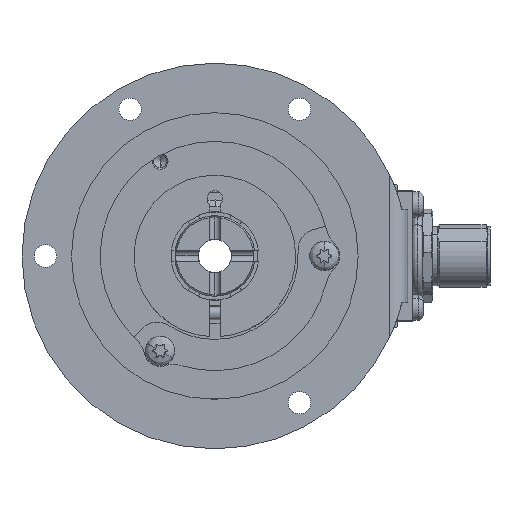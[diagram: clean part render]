
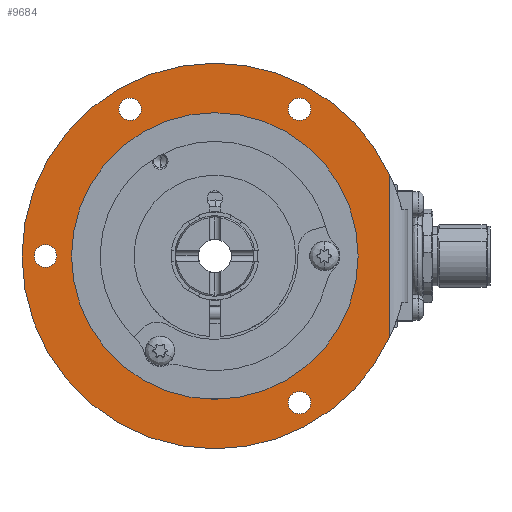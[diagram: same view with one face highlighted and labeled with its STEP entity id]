
A CAD part, left-side view. The second image highlights one B-rep face of the part: STEP entity #9684.
In plain terms, the highlighted planar face has unit normal (-1, 0, 0).
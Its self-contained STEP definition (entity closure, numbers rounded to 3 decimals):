
#39 = VERTEX_POINT ( 'NONE', #17318 ) ;
#103 = DIRECTION ( 'NONE',  ( -1., 0., 0. ) ) ;
#233 = CARTESIAN_POINT ( 'NONE',  ( -19.622, 9.173, -30.296 ) ) ;
#642 = VERTEX_POINT ( 'NONE', #9607 ) ;
#734 = DIRECTION ( 'NONE',  ( -1., 0., 0. ) ) ;
#824 = EDGE_CURVE ( 'NONE', #6047, #10641, #9816, .T. ) ;
#943 = AXIS2_PLACEMENT_3D ( 'NONE', #17556, #2856, #20892 ) ;
#1094 = FACE_BOUND ( 'NONE', #17458, .T. ) ;
#1172 = DIRECTION ( 'NONE',  ( 0., 0., -1. ) ) ;
#1890 = EDGE_CURVE ( 'NONE', #39, #21086, #16045, .T. ) ;
#2131 = ORIENTED_EDGE ( 'NONE', *, *, #6673, .F. ) ;
#2152 = CARTESIAN_POINT ( 'NONE',  ( -19.622, 25.423, 27.5 ) ) ;
#2196 = CARTESIAN_POINT ( 'NONE',  ( -19.622, -8.077, 15.708 ) ) ;
#2469 = DIRECTION ( 'NONE',  ( 0., 0., -1. ) ) ;
#2471 = EDGE_CURVE ( 'NONE', #16066, #11988, #5738, .T. ) ;
#2582 = VERTEX_POINT ( 'NONE', #10339 ) ;
#2856 = DIRECTION ( 'NONE',  ( -1., 0., 0. ) ) ;
#3141 = AXIS2_PLACEMENT_3D ( 'NONE', #10774, #10561, #15736 ) ;
#3195 = AXIS2_PLACEMENT_3D ( 'NONE', #5232, #13868, #15264 ) ;
#3269 = CARTESIAN_POINT ( 'NONE',  ( -19.622, 9.173, 30.296 ) ) ;
#4014 = EDGE_LOOP ( 'NONE', ( #18865, #13568, #5267, #7489 ) ) ;
#4152 = FACE_OUTER_BOUND ( 'NONE', #4014, .T. ) ;
#4446 = EDGE_LOOP ( 'NONE', ( #5110, #12791 ) ) ;
#4477 = DIRECTION ( 'NONE',  ( -1., 0., 0. ) ) ;
#4678 = ORIENTED_EDGE ( 'NONE', *, *, #13243, .F. ) ;
#4834 = DIRECTION ( 'NONE',  ( -1., 0., 0. ) ) ;
#5110 = ORIENTED_EDGE ( 'NONE', *, *, #13520, .F. ) ;
#5115 = EDGE_CURVE ( 'NONE', #11988, #16066, #5847, .T. ) ;
#5174 = EDGE_LOOP ( 'NONE', ( #9808, #20876 ) ) ;
#5229 = CARTESIAN_POINT ( 'NONE',  ( -19.622, 57.923, 2.15 ) ) ;
#5232 = CARTESIAN_POINT ( 'NONE',  ( -19.622, 41.673, 28.146 ) ) ;
#5267 = ORIENTED_EDGE ( 'NONE', *, *, #12271, .T. ) ;
#5631 = CARTESIAN_POINT ( 'NONE',  ( -19.622, 9.173, 25.996 ) ) ;
#5634 = VERTEX_POINT ( 'NONE', #233 ) ;
#5738 = CIRCLE ( 'NONE', #8494, 2.15 ) ;
#5847 = CIRCLE ( 'NONE', #17927, 2.15 ) ;
#5960 = VECTOR ( 'NONE', #19560, 1000. ) ;
#6038 = AXIS2_PLACEMENT_3D ( 'NONE', #17573, #10979, #13712 ) ;
#6047 = VERTEX_POINT ( 'NONE', #3269 ) ;
#6311 = DIRECTION ( 'NONE',  ( 0., 0., -1. ) ) ;
#6535 = ORIENTED_EDGE ( 'NONE', *, *, #21158, .F. ) ;
#6673 = EDGE_CURVE ( 'NONE', #5634, #642, #12986, .T. ) ;
#6728 = DIRECTION ( 'NONE',  ( 0., 0., -1. ) ) ;
#7403 = AXIS2_PLACEMENT_3D ( 'NONE', #16206, #16105, #1172 ) ;
#7489 = ORIENTED_EDGE ( 'NONE', *, *, #18455, .T. ) ;
#7601 = FACE_BOUND ( 'NONE', #5174, .T. ) ;
#7707 = FACE_BOUND ( 'NONE', #4446, .T. ) ;
#8168 = CARTESIAN_POINT ( 'NONE',  ( -19.622, 9.173, -28.146 ) ) ;
#8345 = CARTESIAN_POINT ( 'NONE',  ( -19.622, 25.423, 0. ) ) ;
#8494 = AXIS2_PLACEMENT_3D ( 'NONE', #9691, #16279, #18229 ) ;
#8553 = DIRECTION ( 'NONE',  ( -1., 0., 0. ) ) ;
#9037 = CARTESIAN_POINT ( 'NONE',  ( -19.622, 41.673, 30.296 ) ) ;
#9138 = DIRECTION ( 'NONE',  ( -1., 0., 0. ) ) ;
#9326 = CARTESIAN_POINT ( 'NONE',  ( -19.622, 57.923, -2.15 ) ) ;
#9349 = AXIS2_PLACEMENT_3D ( 'NONE', #20277, #9138, #18868 ) ;
#9414 = LINE ( 'NONE', #17535, #5960 ) ;
#9607 = CARTESIAN_POINT ( 'NONE',  ( -19.622, 9.173, -25.996 ) ) ;
#9681 = CIRCLE ( 'NONE', #9349, 2.15 ) ;
#9684 = ADVANCED_FACE ( 'NONE', ( #18938, #19153, #4152, #1094, #7601, #7707 ), #14300, .T. ) ;
#9691 = CARTESIAN_POINT ( 'NONE',  ( -19.622, 57.923, 0. ) ) ;
#9808 = ORIENTED_EDGE ( 'NONE', *, *, #824, .F. ) ;
#9816 = CIRCLE ( 'NONE', #6038, 2.15 ) ;
#10339 = CARTESIAN_POINT ( 'NONE',  ( -19.622, 41.673, 25.996 ) ) ;
#10561 = DIRECTION ( 'NONE',  ( -1., 0., 0. ) ) ;
#10641 = VERTEX_POINT ( 'NONE', #5631 ) ;
#10741 = CARTESIAN_POINT ( 'NONE',  ( -19.622, 25.423, 0. ) ) ;
#10774 = CARTESIAN_POINT ( 'NONE',  ( -19.622, 25.423, 0. ) ) ;
#10844 = DIRECTION ( 'NONE',  ( 0., 0., -1. ) ) ;
#10979 = DIRECTION ( 'NONE',  ( -1., 0., 0. ) ) ;
#11340 = CIRCLE ( 'NONE', #943, 27.5 ) ;
#11988 = VERTEX_POINT ( 'NONE', #9326 ) ;
#12142 = VERTEX_POINT ( 'NONE', #13105 ) ;
#12197 = EDGE_CURVE ( 'NONE', #14820, #39, #16122, .T. ) ;
#12271 = EDGE_CURVE ( 'NONE', #21086, #18399, #17519, .T. ) ;
#12449 = CIRCLE ( 'NONE', #3141, 27.5 ) ;
#12764 = DIRECTION ( 'NONE',  ( -1., 0., 0. ) ) ;
#12791 = ORIENTED_EDGE ( 'NONE', *, *, #18300, .F. ) ;
#12986 = CIRCLE ( 'NONE', #16786, 2.15 ) ;
#13105 = CARTESIAN_POINT ( 'NONE',  ( -19.622, 25.423, -27.5 ) ) ;
#13242 = DIRECTION ( 'NONE',  ( 0., 0., -1. ) ) ;
#13243 = EDGE_CURVE ( 'NONE', #12142, #18812, #11340, .T. ) ;
#13378 = ORIENTED_EDGE ( 'NONE', *, *, #13828, .F. ) ;
#13520 = EDGE_CURVE ( 'NONE', #15903, #2582, #13759, .T. ) ;
#13568 = ORIENTED_EDGE ( 'NONE', *, *, #1890, .T. ) ;
#13699 = CARTESIAN_POINT ( 'NONE',  ( -19.622, 25.423, -37. ) ) ;
#13712 = DIRECTION ( 'NONE',  ( 0., 0., -1. ) ) ;
#13759 = CIRCLE ( 'NONE', #15472, 2.15 ) ;
#13828 = EDGE_CURVE ( 'NONE', #642, #5634, #16176, .T. ) ;
#13868 = DIRECTION ( 'NONE',  ( -1., 0., 0. ) ) ;
#14092 = DIRECTION ( 'NONE',  ( -1., 0., 0. ) ) ;
#14300 = PLANE ( 'NONE',  #17414 ) ;
#14640 = ORIENTED_EDGE ( 'NONE', *, *, #2471, .F. ) ;
#14820 = VERTEX_POINT ( 'NONE', #2196 ) ;
#15264 = DIRECTION ( 'NONE',  ( 0., 0., -1. ) ) ;
#15403 = EDGE_LOOP ( 'NONE', ( #13378, #2131 ) ) ;
#15472 = AXIS2_PLACEMENT_3D ( 'NONE', #18916, #12764, #19353 ) ;
#15522 = ORIENTED_EDGE ( 'NONE', *, *, #5115, .F. ) ;
#15736 = DIRECTION ( 'NONE',  ( 0., 0., -1. ) ) ;
#15903 = VERTEX_POINT ( 'NONE', #9037 ) ;
#16045 = CIRCLE ( 'NONE', #7403, 37. ) ;
#16066 = VERTEX_POINT ( 'NONE', #5229 ) ;
#16105 = DIRECTION ( 'NONE',  ( -1., 0., 0. ) ) ;
#16122 = CIRCLE ( 'NONE', #18874, 37. ) ;
#16176 = CIRCLE ( 'NONE', #19965, 2.15 ) ;
#16206 = CARTESIAN_POINT ( 'NONE',  ( -19.622, 25.423, 0. ) ) ;
#16279 = DIRECTION ( 'NONE',  ( -1., 0., 0. ) ) ;
#16786 = AXIS2_PLACEMENT_3D ( 'NONE', #8168, #4834, #13242 ) ;
#17318 = CARTESIAN_POINT ( 'NONE',  ( -19.622, 25.423, 37. ) ) ;
#17414 = AXIS2_PLACEMENT_3D ( 'NONE', #10741, #14092, #10844 ) ;
#17458 = EDGE_LOOP ( 'NONE', ( #6535, #4678 ) ) ;
#17519 = CIRCLE ( 'NONE', #21310, 37. ) ;
#17535 = CARTESIAN_POINT ( 'NONE',  ( -19.622, -8.077, 9. ) ) ;
#17556 = CARTESIAN_POINT ( 'NONE',  ( -19.622, 25.423, 0. ) ) ;
#17573 = CARTESIAN_POINT ( 'NONE',  ( -19.622, 9.173, 28.146 ) ) ;
#17627 = DIRECTION ( 'NONE',  ( 0., 0., -1. ) ) ;
#17927 = AXIS2_PLACEMENT_3D ( 'NONE', #18798, #734, #17627 ) ;
#18031 = CIRCLE ( 'NONE', #3195, 2.15 ) ;
#18229 = DIRECTION ( 'NONE',  ( 0., 0., -1. ) ) ;
#18300 = EDGE_CURVE ( 'NONE', #2582, #15903, #18031, .T. ) ;
#18395 = CARTESIAN_POINT ( 'NONE',  ( -19.622, 25.423, 0. ) ) ;
#18399 = VERTEX_POINT ( 'NONE', #20339 ) ;
#18455 = EDGE_CURVE ( 'NONE', #18399, #14820, #9414, .T. ) ;
#18798 = CARTESIAN_POINT ( 'NONE',  ( -19.622, 57.923, 0. ) ) ;
#18812 = VERTEX_POINT ( 'NONE', #2152 ) ;
#18865 = ORIENTED_EDGE ( 'NONE', *, *, #12197, .T. ) ;
#18868 = DIRECTION ( 'NONE',  ( 0., 0., -1. ) ) ;
#18874 = AXIS2_PLACEMENT_3D ( 'NONE', #8345, #103, #6728 ) ;
#18916 = CARTESIAN_POINT ( 'NONE',  ( -19.622, 41.673, 28.146 ) ) ;
#18938 = FACE_BOUND ( 'NONE', #20152, .T. ) ;
#19153 = FACE_BOUND ( 'NONE', #15403, .T. ) ;
#19353 = DIRECTION ( 'NONE',  ( 0., 0., -1. ) ) ;
#19373 = CARTESIAN_POINT ( 'NONE',  ( -19.622, 9.173, -28.146 ) ) ;
#19560 = DIRECTION ( 'NONE',  ( 0., 0., 1. ) ) ;
#19965 = AXIS2_PLACEMENT_3D ( 'NONE', #19373, #4477, #6311 ) ;
#20152 = EDGE_LOOP ( 'NONE', ( #14640, #15522 ) ) ;
#20277 = CARTESIAN_POINT ( 'NONE',  ( -19.622, 9.173, 28.146 ) ) ;
#20339 = CARTESIAN_POINT ( 'NONE',  ( -19.622, -8.077, -15.708 ) ) ;
#20876 = ORIENTED_EDGE ( 'NONE', *, *, #21117, .F. ) ;
#20892 = DIRECTION ( 'NONE',  ( 0., 0., -1. ) ) ;
#21086 = VERTEX_POINT ( 'NONE', #13699 ) ;
#21117 = EDGE_CURVE ( 'NONE', #10641, #6047, #9681, .T. ) ;
#21158 = EDGE_CURVE ( 'NONE', #18812, #12142, #12449, .T. ) ;
#21310 = AXIS2_PLACEMENT_3D ( 'NONE', #18395, #8553, #2469 ) ;
